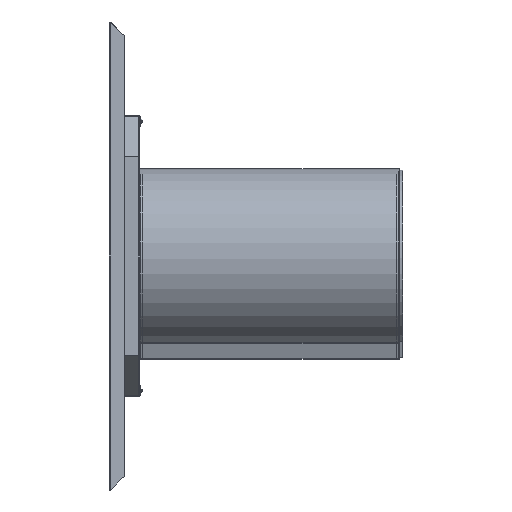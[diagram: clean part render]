
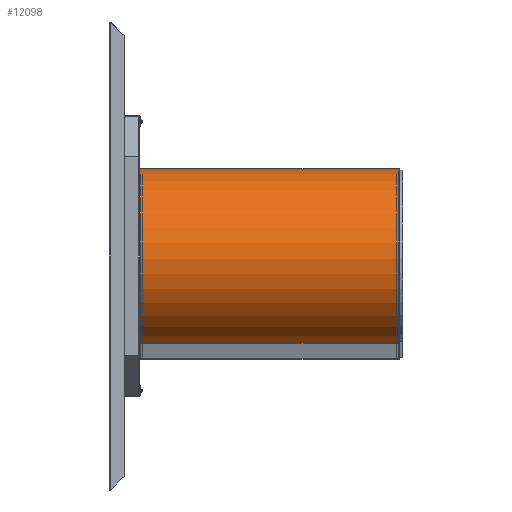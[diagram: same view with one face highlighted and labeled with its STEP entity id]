
A CAD part, left-side view. The second image highlights one B-rep face of the part: STEP entity #12098.
In plain terms, the highlighted cylindrical face has radius 230 mm (diameter 460 mm), a partial arc.
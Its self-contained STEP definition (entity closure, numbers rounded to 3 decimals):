
#141 = CYLINDRICAL_SURFACE ( 'NONE', #10645, 230. ) ;
#276 = CARTESIAN_POINT ( 'NONE',  ( 2., 665., 230. ) ) ;
#1269 = DIRECTION ( 'NONE',  ( 0., 1., 0. ) ) ;
#2188 = VERTEX_POINT ( 'NONE', #276 ) ;
#2396 = AXIS2_PLACEMENT_3D ( 'NONE', #11494, #1269, #3366 ) ;
#3060 = CARTESIAN_POINT ( 'NONE',  ( 2., 0., 230. ) ) ;
#3250 = DIRECTION ( 'NONE',  ( 0., 1., 0. ) ) ;
#3366 = DIRECTION ( 'NONE',  ( 0., 0., 1. ) ) ;
#3801 = ORIENTED_EDGE ( 'NONE', *, *, #11043, .T. ) ;
#4127 = CIRCLE ( 'NONE', #9527, 230. ) ;
#5101 = DIRECTION ( 'NONE',  ( 0., -1., 0. ) ) ;
#6174 = CARTESIAN_POINT ( 'NONE',  ( 2., 0., -230. ) ) ;
#6592 = CARTESIAN_POINT ( 'NONE',  ( 2., 665., -230. ) ) ;
#6639 = EDGE_CURVE ( 'NONE', #16355, #21339, #9726, .T. ) ;
#8311 = CARTESIAN_POINT ( 'NONE',  ( 2., 665., 0. ) ) ;
#9527 = AXIS2_PLACEMENT_3D ( 'NONE', #8311, #3250, #21922 ) ;
#9653 = EDGE_LOOP ( 'NONE', ( #3801, #11920, #10506, #15082 ) ) ;
#9726 = LINE ( 'NONE', #16360, #17442 ) ;
#9816 = EDGE_CURVE ( 'NONE', #2188, #16355, #4127, .T. ) ;
#10157 = DIRECTION ( 'NONE',  ( 0., 0., -1. ) ) ;
#10506 = ORIENTED_EDGE ( 'NONE', *, *, #9816, .F. ) ;
#10645 = AXIS2_PLACEMENT_3D ( 'NONE', #20839, #18702, #10157 ) ;
#11043 = EDGE_CURVE ( 'NONE', #19086, #21339, #12086, .T. ) ;
#11494 = CARTESIAN_POINT ( 'NONE',  ( 2., 0., 0. ) ) ;
#11528 = DIRECTION ( 'NONE',  ( 0., -1., 0. ) ) ;
#11920 = ORIENTED_EDGE ( 'NONE', *, *, #6639, .F. ) ;
#12086 = CIRCLE ( 'NONE', #2396, 230. ) ;
#12098 = ADVANCED_FACE ( 'NONE', ( #18919 ), #141, .T. ) ;
#12163 = LINE ( 'NONE', #17110, #21842 ) ;
#14957 = EDGE_CURVE ( 'NONE', #2188, #19086, #12163, .T. ) ;
#15082 = ORIENTED_EDGE ( 'NONE', *, *, #14957, .T. ) ;
#16355 = VERTEX_POINT ( 'NONE', #6592 ) ;
#16360 = CARTESIAN_POINT ( 'NONE',  ( 2., 665., -230. ) ) ;
#17110 = CARTESIAN_POINT ( 'NONE',  ( 2., 665., 230. ) ) ;
#17442 = VECTOR ( 'NONE', #11528, 1000. ) ;
#18702 = DIRECTION ( 'NONE',  ( 0., -1., 0. ) ) ;
#18919 = FACE_OUTER_BOUND ( 'NONE', #9653, .T. ) ;
#19086 = VERTEX_POINT ( 'NONE', #3060 ) ;
#20839 = CARTESIAN_POINT ( 'NONE',  ( 2., 665., 0. ) ) ;
#21339 = VERTEX_POINT ( 'NONE', #6174 ) ;
#21842 = VECTOR ( 'NONE', #5101, 1000. ) ;
#21922 = DIRECTION ( 'NONE',  ( 0., 0., 1. ) ) ;
